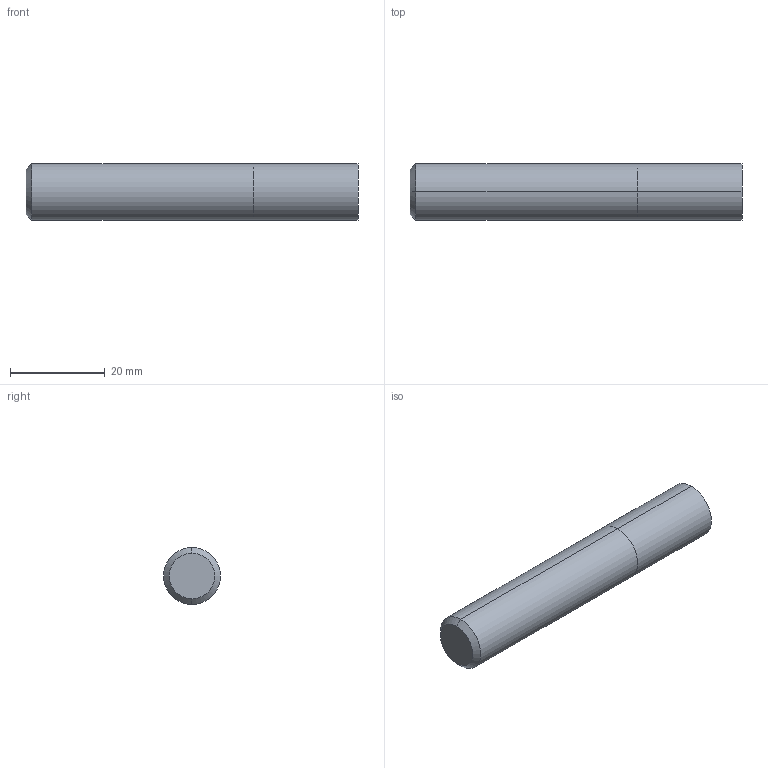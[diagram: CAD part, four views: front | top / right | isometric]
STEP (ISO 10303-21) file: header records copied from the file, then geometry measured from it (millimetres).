
FILE_DESCRIPTION (( 'STEP AP214' ), '1' );
FILE_NAME ('G9424120.STEP', '2018-07-03T03:41:14', ( '' ), ( '' ), 'SwSTEP 2.0', 'SolidWorks 2014', '' );
FILE_SCHEMA (( 'AUTOMOTIVE_DESIGN' ));
Length unit declared in the file: millimetre
Products named in the file (1): G9424120
Bounding box: 70 x 12 x 12 mm (x, y, z)
Volume: 7891.5 mm3; surface area: 3063 mm2
Topology: 2 solids, 2 shells, 10 faces, 16 edges, 10 vertices
Faces by surface type: cylinder 4, plane 4, cone 2
Entity records: 321 total; most frequent: DIRECTION 48, CARTESIAN_POINT 37, ORIENTED_EDGE 32, AXIS2_PLACEMENT_3D 21, EDGE_CURVE 16, ADVANCED_FACE 10, FACE_OUTER_BOUND 10, EDGE_LOOP 10
